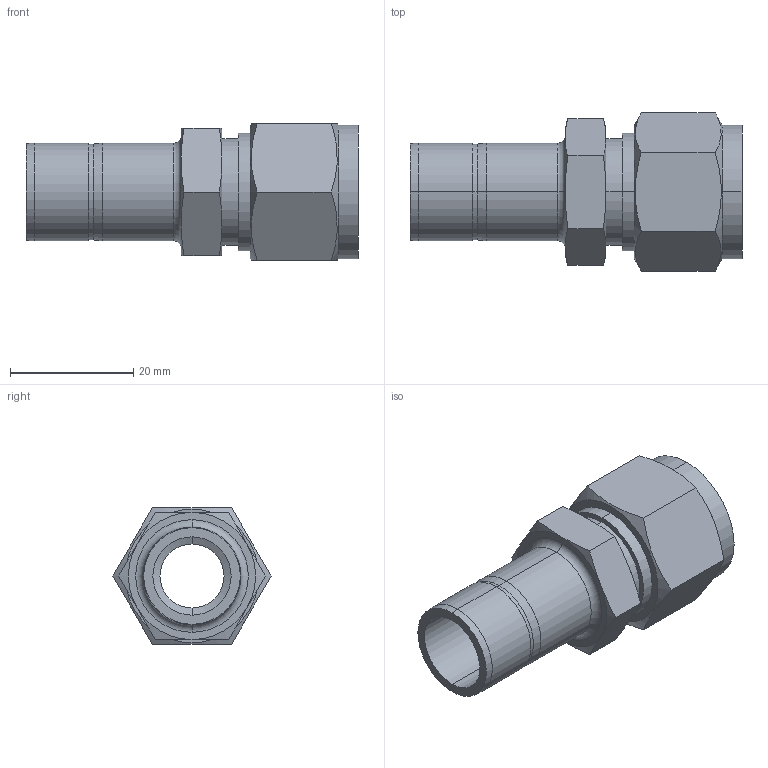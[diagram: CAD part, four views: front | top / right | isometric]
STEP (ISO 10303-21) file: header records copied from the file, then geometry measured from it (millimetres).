
FILE_DESCRIPTION (( 'STEP AP203' ), '1' );
FILE_NAME ('DRE08-10 SS.STEP', '2009-09-08T08:38:20', ( ' ' ), ( '' ), 'SwSTEP 2.0', 'SolidWorks 2008', '' );
FILE_SCHEMA (( 'CONFIG_CONTROL_DESIGN' ));
Length unit declared in the file: millimetre
Products named in the file (1): DRE08-10 SS
Bounding box: 53.9 x 25.67 x 22.23 mm (x, y, z)
Volume: 9300.2 mm3; surface area: 6250.8 mm2
Topology: 1 solids, 1 shells, 63 faces, 138 edges, 82 vertices
Faces by surface type: cone 24, plane 19, cylinder 18, torus 2
Entity records: 1965 total; most frequent: CARTESIAN_POINT 540, DIRECTION 282, ORIENTED_EDGE 276, EDGE_CURVE 138, AXIS2_PLACEMENT_3D 120, VERTEX_POINT 82, EDGE_LOOP 70, ADVANCED_FACE 63
